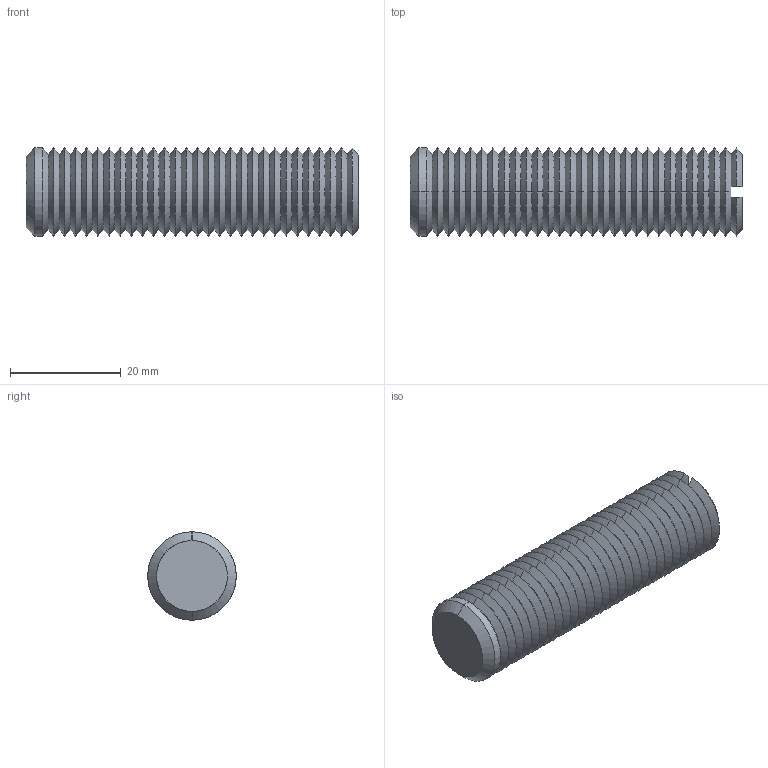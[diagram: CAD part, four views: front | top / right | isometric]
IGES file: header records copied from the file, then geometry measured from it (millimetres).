
Start section: SolidWorks IGES file using analytic representation for surfaces
Global section: file name: C:\Documents and Settings\IANO\Desktop\Temp File\Process pending\EXISTING\34300_v2\34300_v2_20170622_IGES\34300.W0166.igs; native system: SolidWorks 2009; preprocessor: SolidWorks 2009; author: IANO; date: 170622.094447; units: millimetre
Bounding box: 60 x 16 x 16 mm (x, y, z)
Surface area: 4716.6 mm2 (no closed solid volume)
Topology: 0 solids, 0 shells, 124 faces, 560 edges, 560 vertices
Faces by surface type: revolution 118, bspline 6
